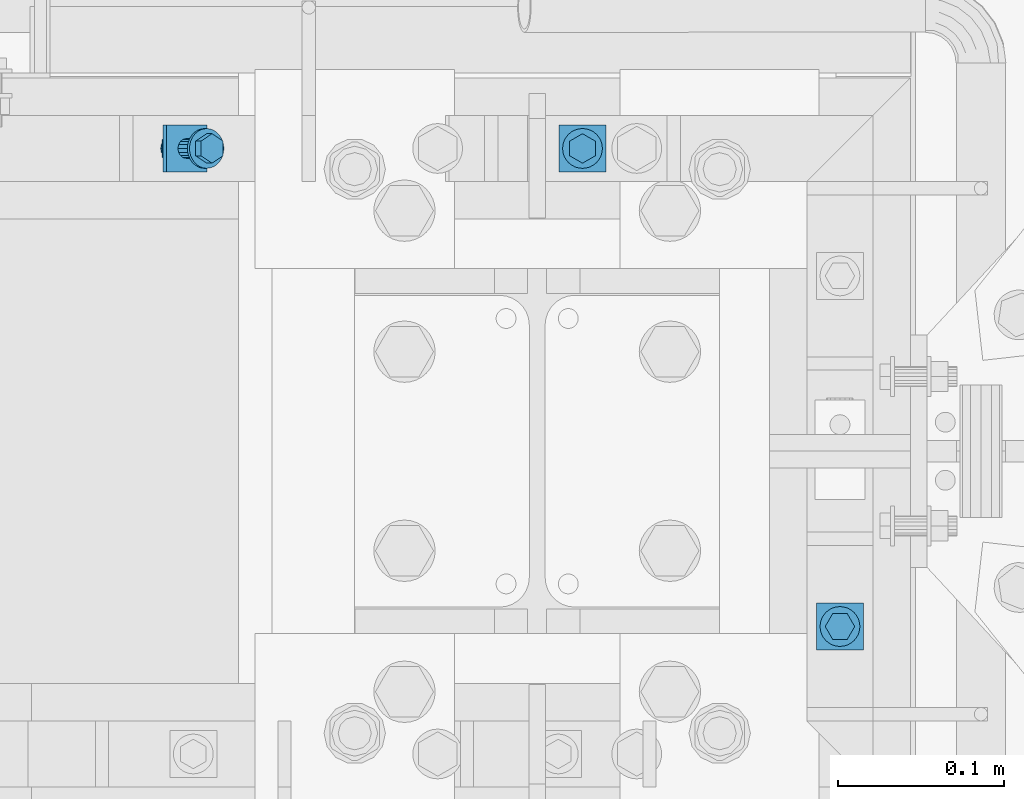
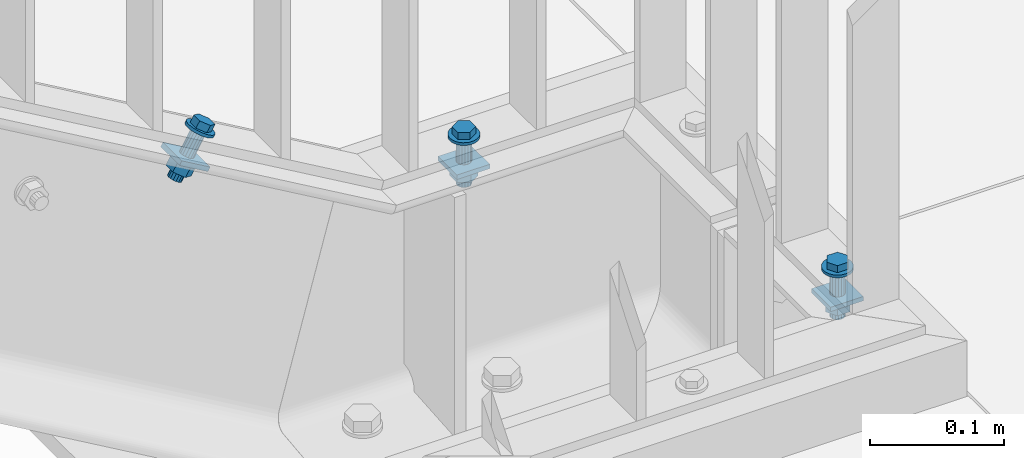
# One storey, part 108 of 145: 3 mechanical fasteners.
"""IFC2X3 building model written with IfcOpenShell, lengths in millimetres."""

from ifc_helpers import new_model, entity, si_unit, converted_unit, origin_with_axes, place, context, project, spatial, faceted_brep, element, save


model = new_model("IFC2X3")

# Units and contexts
model_context = context("Model", 3, precision=1e-09, world=origin_with_axes())
ifc_project = project(units=[si_unit("LENGTHUNIT", "METRE", prefix="MILLI"), si_unit("AREAUNIT", "SQUARE_METRE"), si_unit("VOLUMEUNIT", "CUBIC_METRE"), converted_unit("PLANEANGLEUNIT", "DEGREE", entity("IfcPlaneAngleMeasure", 0.01745329), si_unit("PLANEANGLEUNIT", "RADIAN"), dimensions=[0, 0, 0, 0, 0, 0, 0])], contexts=[model_context])

# Site, building, storey
site_placement = place(None, origin_with_axes())
site = spatial("IfcSite", under=ifc_project, at=site_placement, Name="BZ1 Grund- und Mittelschule 85716 Unterschlei?heim", CompositionType="ELEMENT")
building_placement = place(site_placement, origin_with_axes())
building = spatial("IfcBuilding", under=site, at=building_placement, Name="Struktur 1", CompositionType="ELEMENT")
storey_placement = place(building_placement, origin_with_axes())
storey = spatial("IfcBuildingStorey", under=building, at=storey_placement, Name="Default Storey", CompositionType="ELEMENT", Elevation=0.0)

# Mechanical fasteners
mechanical_fastener_1_placement = place(None, origin_with_axes())
element("IfcMechanicalFastener", 1, at=mechanical_fastener_1_placement, inside=storey, ObjectType="-", NominalDiameter=12.0, NominalLength=45.0, context=model_context, shape_type="Brep", body=[
    faceted_brep([(20020.738388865, -1512.502, 1701.285198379), (20021.995116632, -1512.502, 1703.446363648), (20021.795790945, -1514.843083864, 1703.562272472), (20020.539063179, -1514.843083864, 1701.401107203), (20021.205473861, -1517.094201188, 1703.905544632), (20019.948746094, -1517.094201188, 1701.744379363), (20020.246850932, -1519.168842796, 1704.462988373), (20018.990123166, -1519.168842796, 1702.301823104), (20018.956761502, -1520.987281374, 1705.213181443), (20017.700033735, -1520.987281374, 1703.052016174), (20017.384782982, -1522.479635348, 1706.127294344), (20016.128055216, -1522.479635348, 1703.966129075), (20015.591325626, -1523.58855439, 1707.17019823), (20014.33459786, -1523.58855439, 1705.00903296), (20013.645310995, -1524.271423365, 1708.301814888), (20012.388583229, -1524.271423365, 1706.140649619), (20011.621523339, -1524.502, 1709.478656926), (20010.364795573, -1524.502, 1707.317491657), (20009.597735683, -1524.271423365, 1710.655498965), (20008.341007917, -1524.271423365, 1708.494333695), (20007.651721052, -1523.58855439, 1711.787115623), (20006.394993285, -1523.58855439, 1709.625950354), (20005.858263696, -1522.479635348, 1712.830019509), (20004.60153593, -1522.479635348, 1710.668854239), (20004.286285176, -1520.987281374, 1713.74413241), (20003.02955741, -1520.987281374, 1711.58296714), (20002.996195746, -1519.168842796, 1714.49432548), (20001.739467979, -1519.168842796, 1712.333160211), (20002.037572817, -1517.094201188, 1715.05176922), (20000.780845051, -1517.094201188, 1712.890603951), (20001.447255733, -1514.843083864, 1715.395041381), (20000.190527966, -1514.843083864, 1713.233876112), (20001.247930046, -1512.502, 1715.510950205), (19999.99120228, -1512.502, 1713.349784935), (20001.447255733, -1510.160916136, 1715.395041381), (20000.190527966, -1510.160916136, 1713.233876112), (20002.037572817, -1507.909798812, 1715.05176922), (20000.780845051, -1507.909798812, 1712.890603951), (20002.996195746, -1505.835157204, 1714.49432548), (20001.739467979, -1505.835157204, 1712.333160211), (20004.286285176, -1504.016718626, 1713.74413241), (20003.02955741, -1504.016718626, 1711.58296714), (20005.858263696, -1502.524364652, 1712.830019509), (20004.60153593, -1502.524364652, 1710.668854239), (20007.651721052, -1501.41544561, 1711.787115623), (20006.394993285, -1501.41544561, 1709.625950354), (20009.597735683, -1500.732576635, 1710.655498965), (20008.341007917, -1500.732576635, 1708.494333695), (20011.621523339, -1500.502, 1709.478656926), (20010.364795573, -1500.502, 1707.317491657), (20013.645310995, -1500.732576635, 1708.301814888), (20012.388583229, -1500.732576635, 1706.140649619), (20015.591325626, -1501.41544561, 1707.17019823), (20014.33459786, -1501.41544561, 1705.00903296), (20017.384782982, -1502.524364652, 1706.127294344), (20016.128055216, -1502.524364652, 1703.966129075), (20018.956761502, -1504.016718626, 1705.213181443), (20017.700033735, -1504.016718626, 1703.052016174), (20020.246850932, -1505.835157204, 1704.462988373), (20018.990123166, -1505.835157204, 1702.301823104), (20021.205473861, -1507.909798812, 1703.905544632), (20019.948746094, -1507.909798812, 1701.744379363), (20021.795790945, -1510.160916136, 1703.562272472), (20020.539063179, -1510.160916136, 1701.401107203)], [[[0, 1, 2, 3]], [[3, 2, 4, 5]], [[5, 4, 6, 7]], [[7, 6, 8, 9]], [[9, 8, 10, 11]], [[11, 10, 12, 13]], [[13, 12, 14, 15]], [[15, 14, 16, 17]], [[17, 16, 18, 19]], [[19, 18, 20, 21]], [[21, 20, 22, 23]], [[23, 22, 24, 25]], [[25, 24, 26, 27]], [[27, 26, 28, 29]], [[29, 28, 30, 31]], [[31, 30, 32, 33]], [[33, 32, 34, 35]], [[35, 34, 36, 37]], [[37, 36, 38, 39]], [[39, 38, 40, 41]], [[41, 40, 42, 43]], [[43, 42, 44, 45]], [[45, 44, 46, 47]], [[47, 46, 48, 49]], [[49, 48, 50, 51]], [[51, 50, 52, 53]], [[53, 52, 54, 55]], [[55, 54, 56, 57]], [[57, 56, 58, 59]], [[59, 58, 60, 61]], [[61, 60, 62, 63]], [[63, 62, 1, 0]], [[2, 1, 62, 60, 58, 56, 54, 52, 50, 48, 46, 44, 42, 40, 38, 36, 34, 32, 30, 28, 26, 24, 22, 20, 18, 16, 14, 12, 10, 8, 6, 4]], [[63, 0, 3, 5, 7, 9, 11, 13, 15, 17, 19, 21, 23, 25, 27, 29, 31, 33, 35, 37, 39, 41, 43, 45, 47, 49, 51, 53, 55, 57, 59, 61]]]),
    faceted_brep([(20008.186994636, -1516.9445, 1718.879264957), (20004.969771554, -1516.9445, 1713.346681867), (20011.621523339, -1521.387, 1709.478656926), (20014.838746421, -1521.387, 1715.011240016), (20018.273275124, -1516.9445, 1705.610631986), (20021.490498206, -1516.9445, 1711.143215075), (20018.273275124, -1508.0595, 1705.610631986), (20021.490498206, -1508.0595, 1711.143215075), (20011.621523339, -1503.617, 1709.478656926), (20014.838746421, -1503.617, 1715.011240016), (20004.969771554, -1508.0595, 1713.346681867), (20008.186994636, -1508.0595, 1718.879264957)], [[[0, 1, 2, 3]], [[3, 2, 4, 5]], [[5, 4, 6, 7]], [[7, 6, 8, 9]], [[9, 8, 10, 11]], [[11, 10, 1, 0]], [[3, 5, 7, 9, 11, 0]], [[2, 1, 10, 8, 6, 4]]]),
    faceted_brep([(20004.65183036, -1512.502, 1685.55728015), (20015.551592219, -1512.502, 1704.301345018), (20015.156770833, -1514.798100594, 1704.53093551), (20004.257008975, -1514.798100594, 1685.786870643), (20014.032414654, -1516.744640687, 1705.184753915), (20003.132652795, -1516.744640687, 1686.440689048), (20012.349696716, -1518.045277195, 1706.163262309), (20001.449934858, -1518.045277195, 1687.419197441), (20010.364795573, -1518.502, 1707.317491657), (19999.465033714, -1518.502, 1688.57342679), (20008.379894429, -1518.045277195, 1708.471721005), (19997.48013257, -1518.045277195, 1689.727656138), (20006.697176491, -1516.744640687, 1709.450229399), (19995.797414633, -1516.744640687, 1690.706164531), (20005.572820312, -1514.798100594, 1710.104047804), (19994.673058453, -1514.798100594, 1691.359982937), (20005.177998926, -1512.502, 1710.333638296), (19994.278237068, -1512.502, 1691.589573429), (20005.572820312, -1510.205899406, 1710.104047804), (19994.673058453, -1510.205899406, 1691.359982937), (20006.697176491, -1508.259359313, 1709.450229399), (19995.797414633, -1508.259359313, 1690.706164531), (20008.379894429, -1506.958722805, 1708.471721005), (19997.48013257, -1506.958722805, 1689.727656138), (20010.364795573, -1506.502, 1707.317491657), (19999.465033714, -1506.502, 1688.57342679), (20012.349696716, -1506.958722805, 1706.163262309), (20001.449934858, -1506.958722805, 1687.419197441), (20014.032414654, -1508.259359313, 1705.184753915), (20003.132652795, -1508.259359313, 1686.440689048), (20015.156770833, -1510.205899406, 1704.53093551), (20004.257008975, -1510.205899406, 1685.786870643)], [[[0, 1, 2, 3]], [[3, 2, 4, 5]], [[5, 4, 6, 7]], [[7, 6, 8, 9]], [[9, 8, 10, 11]], [[11, 10, 12, 13]], [[13, 12, 14, 15]], [[15, 14, 16, 17]], [[17, 16, 18, 19]], [[19, 18, 20, 21]], [[21, 20, 22, 23]], [[23, 22, 24, 25]], [[25, 24, 26, 27]], [[27, 26, 28, 29]], [[29, 28, 30, 31]], [[31, 30, 1, 0]], [[2, 1, 30, 28, 26, 24, 22, 20, 18, 16, 14, 12, 10, 8, 6, 4]], [[31, 0, 3, 5, 7, 9, 11, 13, 15, 17, 19, 21, 23, 25, 27, 29]]]),
    faceted_brep([(19987.239636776, -1526.644135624, 1695.682552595), (19985.22887235, -1526.644135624, 1692.224688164), (20009.679666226, -1526.644135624, 1678.006436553), (20011.690430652, -1526.644135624, 1681.464300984), (20009.679666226, -1498.359864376, 1678.006436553), (20011.690430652, -1498.359864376, 1681.464300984), (19985.22887235, -1498.359864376, 1692.224688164), (19987.239636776, -1498.359864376, 1695.682552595)], [[[0, 1, 2, 3]], [[3, 2, 4, 5]], [[5, 4, 6, 7]], [[7, 6, 1, 0]], [[3, 5, 7, 0]], [[2, 1, 6, 4]]]),
    faceted_brep([(19989.556015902, -1517.777, 1689.708433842), (19984.529104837, -1517.777, 1681.063772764), (19992.427358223, -1523.052, 1676.470901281), (19997.454269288, -1523.052, 1685.115562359), (20000.325611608, -1517.777, 1671.878029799), (20005.352522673, -1517.777, 1680.522690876), (20000.325611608, -1507.227, 1671.878029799), (20005.352522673, -1507.227, 1680.522690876), (19992.427358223, -1501.952, 1676.470901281), (19997.454269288, -1501.952, 1685.115562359), (19984.529104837, -1507.227, 1681.063772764), (19989.556015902, -1507.227, 1689.708433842)], [[[0, 1, 2, 3]], [[3, 2, 4, 5]], [[5, 4, 6, 7]], [[7, 6, 8, 9]], [[9, 8, 10, 11]], [[11, 10, 1, 0]], [[3, 5, 7, 9, 11, 0]], [[2, 1, 10, 8, 6, 4]]]),
    faceted_brep([(19994.187220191, -1512.502, 1667.561535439), (19997.614154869, -1512.502, 1673.454754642), (19997.219333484, -1514.798100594, 1673.684345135), (19993.792398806, -1514.798100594, 1667.791125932), (19996.094977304, -1516.744640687, 1674.33816354), (19992.668042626, -1516.744640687, 1668.444944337), (19994.412259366, -1518.045277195, 1675.316671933), (19990.985324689, -1518.045277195, 1669.42345273), (19992.427358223, -1518.502, 1676.470901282), (19989.000423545, -1518.502, 1670.577682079), (19990.442457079, -1518.045277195, 1677.62513063), (19987.015522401, -1518.045277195, 1671.731911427), (19988.759739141, -1516.744640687, 1678.603639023), (19985.332804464, -1516.744640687, 1672.71041982), (19987.635382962, -1514.798100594, 1679.257457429), (19984.208448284, -1514.798100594, 1673.364238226), (19987.240561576, -1512.502, 1679.487047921), (19983.813626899, -1512.502, 1673.593828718), (19987.635382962, -1510.205899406, 1679.257457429), (19984.208448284, -1510.205899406, 1673.364238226), (19988.759739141, -1508.259359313, 1678.603639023), (19985.332804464, -1508.259359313, 1672.71041982), (19990.442457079, -1506.958722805, 1677.62513063), (19987.015522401, -1506.958722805, 1671.731911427), (19992.427358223, -1506.502, 1676.470901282), (19989.000423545, -1506.502, 1670.577682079), (19994.412259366, -1506.958722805, 1675.316671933), (19990.985324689, -1506.958722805, 1669.42345273), (19996.094977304, -1508.259359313, 1674.33816354), (19992.668042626, -1508.259359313, 1668.444944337), (19997.219333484, -1510.205899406, 1673.684345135), (19993.792398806, -1510.205899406, 1667.791125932)], [[[0, 1, 2, 3]], [[3, 2, 4, 5]], [[5, 4, 6, 7]], [[7, 6, 8, 9]], [[9, 8, 10, 11]], [[11, 10, 12, 13]], [[13, 12, 14, 15]], [[15, 14, 16, 17]], [[17, 16, 18, 19]], [[19, 18, 20, 21]], [[21, 20, 22, 23]], [[23, 22, 24, 25]], [[25, 24, 26, 27]], [[27, 26, 28, 29]], [[29, 28, 30, 31]], [[31, 30, 1, 0]], [[2, 1, 30, 28, 26, 24, 22, 20, 18, 16, 14, 12, 10, 8, 6, 4]], [[31, 0, 3, 5, 7, 9, 11, 13, 15, 17, 19, 21, 23, 25, 27, 29]]]),
])
mechanical_fastener_2_placement = place(None, origin_with_axes())
element("IfcMechanicalFastener", 2, at=mechanical_fastener_2_placement, inside=storey, ObjectType="-", NominalDiameter=12.0, NominalLength=45.0, context=model_context, shape_type="Brep", body=[
    faceted_brep([(20250.141490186, -1512.502, 1621.636364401), (20250.141490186, -1512.502, 1624.136364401), (20249.910913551, -1514.843083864, 1624.136364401), (20249.910913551, -1514.843083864, 1621.636364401), (20249.228044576, -1517.094201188, 1624.136364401), (20249.228044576, -1517.094201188, 1621.636364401), (20248.119125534, -1519.168842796, 1624.136364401), (20248.119125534, -1519.168842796, 1621.636364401), (20246.62677156, -1520.987281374, 1624.136364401), (20246.62677156, -1520.987281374, 1621.636364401), (20244.808332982, -1522.479635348, 1624.136364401), (20244.808332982, -1522.479635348, 1621.636364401), (20242.733691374, -1523.58855439, 1624.136364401), (20242.733691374, -1523.58855439, 1621.636364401), (20240.48257405, -1524.271423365, 1624.136364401), (20240.48257405, -1524.271423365, 1621.636364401), (20238.141490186, -1524.502, 1624.136364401), (20238.141490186, -1524.502, 1621.636364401), (20235.800406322, -1524.271423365, 1624.136364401), (20235.800406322, -1524.271423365, 1621.636364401), (20233.549288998, -1523.58855439, 1624.136364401), (20233.549288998, -1523.58855439, 1621.636364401), (20231.47464739, -1522.479635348, 1624.136364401), (20231.47464739, -1522.479635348, 1621.636364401), (20229.656208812, -1520.987281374, 1624.136364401), (20229.656208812, -1520.987281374, 1621.636364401), (20228.163854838, -1519.168842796, 1624.136364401), (20228.163854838, -1519.168842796, 1621.636364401), (20227.054935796, -1517.094201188, 1624.136364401), (20227.054935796, -1517.094201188, 1621.636364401), (20226.372066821, -1514.843083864, 1624.136364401), (20226.372066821, -1514.843083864, 1621.636364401), (20226.141490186, -1512.502, 1624.136364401), (20226.141490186, -1512.502, 1621.636364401), (20226.372066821, -1510.160916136, 1624.136364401), (20226.372066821, -1510.160916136, 1621.636364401), (20227.054935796, -1507.909798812, 1624.136364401), (20227.054935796, -1507.909798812, 1621.636364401), (20228.163854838, -1505.835157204, 1624.136364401), (20228.163854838, -1505.835157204, 1621.636364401), (20229.656208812, -1504.016718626, 1624.136364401), (20229.656208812, -1504.016718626, 1621.636364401), (20231.47464739, -1502.524364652, 1624.136364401), (20231.47464739, -1502.524364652, 1621.636364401), (20233.549288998, -1501.41544561, 1624.136364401), (20233.549288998, -1501.41544561, 1621.636364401), (20235.800406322, -1500.732576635, 1624.136364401), (20235.800406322, -1500.732576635, 1621.636364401), (20238.141490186, -1500.502, 1624.136364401), (20238.141490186, -1500.502, 1621.636364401), (20240.48257405, -1500.732576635, 1624.136364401), (20240.48257405, -1500.732576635, 1621.636364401), (20242.733691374, -1501.41544561, 1624.136364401), (20242.733691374, -1501.41544561, 1621.636364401), (20244.808332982, -1502.524364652, 1624.136364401), (20244.808332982, -1502.524364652, 1621.636364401), (20246.62677156, -1504.016718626, 1624.136364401), (20246.62677156, -1504.016718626, 1621.636364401), (20248.119125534, -1505.835157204, 1624.136364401), (20248.119125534, -1505.835157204, 1621.636364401), (20249.228044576, -1507.909798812, 1624.136364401), (20249.228044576, -1507.909798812, 1621.636364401), (20249.910913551, -1510.160916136, 1624.136364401), (20249.910913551, -1510.160916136, 1621.636364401)], [[[0, 1, 2, 3]], [[3, 2, 4, 5]], [[5, 4, 6, 7]], [[7, 6, 8, 9]], [[9, 8, 10, 11]], [[11, 10, 12, 13]], [[13, 12, 14, 15]], [[15, 14, 16, 17]], [[17, 16, 18, 19]], [[19, 18, 20, 21]], [[21, 20, 22, 23]], [[23, 22, 24, 25]], [[25, 24, 26, 27]], [[27, 26, 28, 29]], [[29, 28, 30, 31]], [[31, 30, 32, 33]], [[33, 32, 34, 35]], [[35, 34, 36, 37]], [[37, 36, 38, 39]], [[39, 38, 40, 41]], [[41, 40, 42, 43]], [[43, 42, 44, 45]], [[45, 44, 46, 47]], [[47, 46, 48, 49]], [[49, 48, 50, 51]], [[51, 50, 52, 53]], [[53, 52, 54, 55]], [[55, 54, 56, 57]], [[57, 56, 58, 59]], [[59, 58, 60, 61]], [[61, 60, 62, 63]], [[63, 62, 1, 0]], [[2, 1, 62, 60, 58, 56, 54, 52, 50, 48, 46, 44, 42, 40, 38, 36, 34, 32, 30, 28, 26, 24, 22, 20, 18, 16, 14, 12, 10, 8, 6, 4]], [[63, 0, 3, 5, 7, 9, 11, 13, 15, 17, 19, 21, 23, 25, 27, 29, 31, 33, 35, 37, 39, 41, 43, 45, 47, 49, 51, 53, 55, 57, 59, 61]]]),
    faceted_brep([(20230.446854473, -1516.9445, 1630.536364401), (20230.446854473, -1516.9445, 1624.136364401), (20238.141490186, -1521.387, 1624.136364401), (20238.141490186, -1521.387, 1630.536364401), (20245.836125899, -1516.9445, 1624.136364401), (20245.836125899, -1516.9445, 1630.536364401), (20245.836125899, -1508.0595, 1624.136364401), (20245.836125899, -1508.0595, 1630.536364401), (20238.141490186, -1503.617, 1624.136364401), (20238.141490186, -1503.617, 1630.536364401), (20230.446854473, -1508.0595, 1624.136364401), (20230.446854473, -1508.0595, 1630.536364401)], [[[0, 1, 2, 3]], [[3, 2, 4, 5]], [[5, 4, 6, 7]], [[7, 6, 8, 9]], [[9, 8, 10, 11]], [[11, 10, 1, 0]], [[3, 5, 7, 9, 11, 0]], [[2, 1, 10, 8, 6, 4]]]),
    faceted_brep([(20244.141490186, -1512.502, 1599.833658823), (20244.141490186, -1512.502, 1621.636364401), (20243.684767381, -1514.798100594, 1621.636364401), (20243.684767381, -1514.798100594, 1599.833658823), (20242.384130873, -1516.744640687, 1621.636364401), (20242.384130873, -1516.744640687, 1599.833658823), (20240.43759078, -1518.045277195, 1621.636364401), (20240.43759078, -1518.045277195, 1599.833658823), (20238.141490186, -1518.502, 1621.636364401), (20238.141490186, -1518.502, 1599.833658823), (20235.845389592, -1518.045277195, 1621.636364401), (20235.845389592, -1518.045277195, 1599.833658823), (20233.898849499, -1516.744640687, 1621.636364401), (20233.898849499, -1516.744640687, 1599.833658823), (20232.598212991, -1514.798100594, 1621.636364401), (20232.598212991, -1514.798100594, 1599.833658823), (20232.141490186, -1512.502, 1621.636364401), (20232.141490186, -1512.502, 1599.833658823), (20232.598212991, -1510.205899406, 1621.636364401), (20232.598212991, -1510.205899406, 1599.833658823), (20233.898849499, -1508.259359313, 1621.636364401), (20233.898849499, -1508.259359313, 1599.833658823), (20235.845389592, -1506.958722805, 1621.636364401), (20235.845389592, -1506.958722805, 1599.833658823), (20238.141490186, -1506.502, 1621.636364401), (20238.141490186, -1506.502, 1599.833658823), (20240.43759078, -1506.958722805, 1621.636364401), (20240.43759078, -1506.958722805, 1599.833658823), (20242.384130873, -1508.259359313, 1621.636364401), (20242.384130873, -1508.259359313, 1599.833658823), (20243.684767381, -1510.205899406, 1621.636364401), (20243.684767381, -1510.205899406, 1599.833658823)], [[[0, 1, 2, 3]], [[3, 2, 4, 5]], [[5, 4, 6, 7]], [[7, 6, 8, 9]], [[9, 8, 10, 11]], [[11, 10, 12, 13]], [[13, 12, 14, 15]], [[15, 14, 16, 17]], [[17, 16, 18, 19]], [[19, 18, 20, 21]], [[21, 20, 22, 23]], [[23, 22, 24, 25]], [[25, 24, 26, 27]], [[27, 26, 28, 29]], [[29, 28, 30, 31]], [[31, 30, 1, 0]], [[2, 1, 30, 28, 26, 24, 22, 20, 18, 16, 14, 12, 10, 8, 6, 4]], [[31, 0, 3, 5, 7, 9, 11, 13, 15, 17, 19, 21, 23, 25, 27, 29]]]),
    faceted_brep([(20223.999354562, -1526.644135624, 1599.833658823), (20223.999354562, -1526.644135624, 1595.833658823), (20252.28362581, -1526.644135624, 1595.833658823), (20252.28362581, -1526.644135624, 1599.833658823), (20252.28362581, -1498.359864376, 1595.833658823), (20252.28362581, -1498.359864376, 1599.833658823), (20223.999354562, -1498.359864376, 1595.833658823), (20223.999354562, -1498.359864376, 1599.833658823)], [[[0, 1, 2, 3]], [[3, 2, 4, 5]], [[5, 4, 6, 7]], [[7, 6, 1, 0]], [[3, 5, 7, 0]], [[2, 1, 6, 4]]]),
    faceted_brep([(20229.004922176, -1517.777, 1595.833658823), (20229.004922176, -1517.777, 1585.833658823), (20238.141490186, -1523.052, 1585.833658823), (20238.141490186, -1523.052, 1595.833658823), (20247.278058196, -1517.777, 1585.833658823), (20247.278058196, -1517.777, 1595.833658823), (20247.278058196, -1507.227, 1585.833658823), (20247.278058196, -1507.227, 1595.833658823), (20238.141490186, -1501.952, 1585.833658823), (20238.141490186, -1501.952, 1595.833658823), (20229.004922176, -1507.227, 1585.833658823), (20229.004922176, -1507.227, 1595.833658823)], [[[0, 1, 2, 3]], [[3, 2, 4, 5]], [[5, 4, 6, 7]], [[7, 6, 8, 9]], [[9, 8, 10, 11]], [[11, 10, 1, 0]], [[3, 5, 7, 9, 11, 0]], [[2, 1, 10, 8, 6, 4]]]),
    faceted_brep([(20244.141490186, -1512.502, 1579.136364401), (20244.141490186, -1512.502, 1585.833658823), (20243.684767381, -1514.798100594, 1585.833658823), (20243.684767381, -1514.798100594, 1579.136364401), (20242.384130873, -1516.744640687, 1585.833658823), (20242.384130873, -1516.744640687, 1579.136364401), (20240.43759078, -1518.045277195, 1585.833658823), (20240.43759078, -1518.045277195, 1579.136364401), (20238.141490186, -1518.502, 1585.833658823), (20238.141490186, -1518.502, 1579.136364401), (20235.845389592, -1518.045277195, 1585.833658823), (20235.845389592, -1518.045277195, 1579.136364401), (20233.898849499, -1516.744640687, 1585.833658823), (20233.898849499, -1516.744640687, 1579.136364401), (20232.598212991, -1514.798100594, 1585.833658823), (20232.598212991, -1514.798100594, 1579.136364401), (20232.141490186, -1512.502, 1585.833658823), (20232.141490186, -1512.502, 1579.136364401), (20232.598212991, -1510.205899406, 1585.833658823), (20232.598212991, -1510.205899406, 1579.136364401), (20233.898849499, -1508.259359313, 1585.833658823), (20233.898849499, -1508.259359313, 1579.136364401), (20235.845389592, -1506.958722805, 1585.833658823), (20235.845389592, -1506.958722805, 1579.136364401), (20238.141490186, -1506.502, 1585.833658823), (20238.141490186, -1506.502, 1579.136364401), (20240.43759078, -1506.958722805, 1585.833658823), (20240.43759078, -1506.958722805, 1579.136364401), (20242.384130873, -1508.259359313, 1585.833658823), (20242.384130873, -1508.259359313, 1579.136364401), (20243.684767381, -1510.205899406, 1585.833658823), (20243.684767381, -1510.205899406, 1579.136364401)], [[[0, 1, 2, 3]], [[3, 2, 4, 5]], [[5, 4, 6, 7]], [[7, 6, 8, 9]], [[9, 8, 10, 11]], [[11, 10, 12, 13]], [[13, 12, 14, 15]], [[15, 14, 16, 17]], [[17, 16, 18, 19]], [[19, 18, 20, 21]], [[21, 20, 22, 23]], [[23, 22, 24, 25]], [[25, 24, 26, 27]], [[27, 26, 28, 29]], [[29, 28, 30, 31]], [[31, 30, 1, 0]], [[2, 1, 30, 28, 26, 24, 22, 20, 18, 16, 14, 12, 10, 8, 6, 4]], [[31, 0, 3, 5, 7, 9, 11, 13, 15, 17, 19, 21, 23, 25, 27, 29]]]),
])
mechanical_fastener_3_placement = place(None, origin_with_axes())
element("IfcMechanicalFastener", 3, at=mechanical_fastener_3_placement, inside=storey, ObjectType="-", NominalDiameter=12.0, NominalLength=45.0, context=model_context, shape_type="Brep", body=[
    faceted_brep([(20393.34472732, -1788.66866667, 1624.136364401), (20393.34472732, -1788.66866667, 1621.636364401), (20391.003643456, -1788.899243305, 1621.636364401), (20391.003643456, -1788.899243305, 1624.136364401), (20388.752526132, -1789.58211228, 1621.636364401), (20388.752526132, -1789.58211228, 1624.136364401), (20386.677884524, -1790.691031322, 1621.636364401), (20386.677884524, -1790.691031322, 1624.136364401), (20384.859445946, -1792.183385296, 1621.636364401), (20384.859445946, -1792.183385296, 1624.136364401), (20383.367091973, -1794.001823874, 1621.636364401), (20383.367091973, -1794.001823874, 1624.136364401), (20382.25817293, -1796.076465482, 1621.636364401), (20382.25817293, -1796.076465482, 1624.136364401), (20381.575303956, -1798.327582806, 1621.636364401), (20381.575303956, -1798.327582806, 1624.136364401), (20381.34472732, -1800.66866667, 1621.636364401), (20381.34472732, -1800.66866667, 1624.136364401), (20381.575303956, -1803.009750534, 1621.636364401), (20381.575303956, -1803.009750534, 1624.136364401), (20382.25817293, -1805.260867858, 1621.636364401), (20382.25817293, -1805.260867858, 1624.136364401), (20383.367091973, -1807.335509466, 1621.636364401), (20383.367091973, -1807.335509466, 1624.136364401), (20384.859445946, -1809.153948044, 1621.636364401), (20384.859445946, -1809.153948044, 1624.136364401), (20386.677884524, -1810.646302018, 1621.636364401), (20386.677884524, -1810.646302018, 1624.136364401), (20388.752526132, -1811.75522106, 1621.636364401), (20388.752526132, -1811.75522106, 1624.136364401), (20391.003643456, -1812.438090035, 1621.636364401), (20391.003643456, -1812.438090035, 1624.136364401), (20393.34472732, -1812.66866667, 1621.636364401), (20393.34472732, -1812.66866667, 1624.136364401), (20395.685811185, -1812.438090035, 1621.636364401), (20395.685811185, -1812.438090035, 1624.136364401), (20397.936928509, -1811.75522106, 1621.636364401), (20397.936928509, -1811.75522106, 1624.136364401), (20400.011570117, -1810.646302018, 1621.636364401), (20400.011570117, -1810.646302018, 1624.136364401), (20401.830008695, -1809.153948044, 1621.636364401), (20401.830008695, -1809.153948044, 1624.136364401), (20403.322362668, -1807.335509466, 1621.636364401), (20403.322362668, -1807.335509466, 1624.136364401), (20404.43128171, -1805.260867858, 1621.636364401), (20404.43128171, -1805.260867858, 1624.136364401), (20405.114150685, -1803.009750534, 1621.636364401), (20405.114150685, -1803.009750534, 1624.136364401), (20405.34472732, -1800.66866667, 1621.636364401), (20405.34472732, -1800.66866667, 1624.136364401), (20405.114150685, -1798.327582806, 1621.636364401), (20405.114150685, -1798.327582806, 1624.136364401), (20404.43128171, -1796.076465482, 1621.636364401), (20404.43128171, -1796.076465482, 1624.136364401), (20403.322362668, -1794.001823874, 1621.636364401), (20403.322362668, -1794.001823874, 1624.136364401), (20401.830008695, -1792.183385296, 1621.636364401), (20401.830008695, -1792.183385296, 1624.136364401), (20400.011570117, -1790.691031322, 1621.636364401), (20400.011570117, -1790.691031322, 1624.136364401), (20397.936928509, -1789.58211228, 1621.636364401), (20397.936928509, -1789.58211228, 1624.136364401), (20395.685811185, -1788.899243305, 1621.636364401), (20395.685811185, -1788.899243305, 1624.136364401)], [[[0, 1, 2, 3]], [[3, 2, 4, 5]], [[5, 4, 6, 7]], [[7, 6, 8, 9]], [[9, 8, 10, 11]], [[11, 10, 12, 13]], [[13, 12, 14, 15]], [[15, 14, 16, 17]], [[17, 16, 18, 19]], [[19, 18, 20, 21]], [[21, 20, 22, 23]], [[23, 22, 24, 25]], [[25, 24, 26, 27]], [[27, 26, 28, 29]], [[29, 28, 30, 31]], [[31, 30, 32, 33]], [[33, 32, 34, 35]], [[35, 34, 36, 37]], [[37, 36, 38, 39]], [[39, 38, 40, 41]], [[41, 40, 42, 43]], [[43, 42, 44, 45]], [[45, 44, 46, 47]], [[47, 46, 48, 49]], [[49, 48, 50, 51]], [[51, 50, 52, 53]], [[53, 52, 54, 55]], [[55, 54, 56, 57]], [[57, 56, 58, 59]], [[59, 58, 60, 61]], [[61, 60, 62, 63]], [[63, 62, 1, 0]], [[0, 3, 5, 7, 9, 11, 13, 15, 17, 19, 21, 23, 25, 27, 29, 31, 33, 35, 37, 39, 41, 43, 45, 47, 49, 51, 53, 55, 57, 59, 61, 63]], [[1, 62, 60, 58, 56, 54, 52, 50, 48, 46, 44, 42, 40, 38, 36, 34, 32, 30, 28, 26, 24, 22, 20, 18, 16, 14, 12, 10, 8, 6, 4, 2]]]),
    faceted_brep([(20388.90222732, -1808.363302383, 1624.136364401), (20388.90222732, -1808.363302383, 1630.536364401), (20384.45972732, -1800.66866667, 1630.536364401), (20384.45972732, -1800.66866667, 1624.136364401), (20388.90222732, -1792.974030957, 1630.536364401), (20388.90222732, -1792.974030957, 1624.136364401), (20397.78722732, -1792.974030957, 1630.536364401), (20397.78722732, -1792.974030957, 1624.136364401), (20402.22972732, -1800.66866667, 1630.536364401), (20402.22972732, -1800.66866667, 1624.136364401), (20397.78722732, -1808.363302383, 1630.536364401), (20397.78722732, -1808.363302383, 1624.136364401)], [[[0, 1, 2, 3]], [[3, 2, 4, 5]], [[5, 4, 6, 7]], [[7, 6, 8, 9]], [[9, 8, 10, 11]], [[11, 10, 1, 0]], [[4, 2, 1, 10, 8, 6]], [[0, 3, 5, 7, 9, 11]]]),
    faceted_brep([(20393.34472732, -1794.66866667, 1621.636364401), (20393.34472732, -1794.66866667, 1599.953542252), (20391.048626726, -1795.125389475, 1599.953542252), (20391.048626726, -1795.125389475, 1621.636364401), (20389.102086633, -1796.426025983, 1599.953542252), (20389.102086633, -1796.426025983, 1621.636364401), (20387.801450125, -1798.372566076, 1599.953542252), (20387.801450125, -1798.372566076, 1621.636364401), (20387.34472732, -1800.66866667, 1599.953542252), (20387.34472732, -1800.66866667, 1621.636364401), (20387.801450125, -1802.964767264, 1599.953542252), (20387.801450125, -1802.964767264, 1621.636364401), (20389.102086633, -1804.911307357, 1599.953542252), (20389.102086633, -1804.911307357, 1621.636364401), (20391.048626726, -1806.211943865, 1599.953542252), (20391.048626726, -1806.211943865, 1621.636364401), (20393.34472732, -1806.66866667, 1599.953542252), (20393.34472732, -1806.66866667, 1621.636364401), (20395.640827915, -1806.211943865, 1599.953542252), (20395.640827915, -1806.211943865, 1621.636364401), (20397.587368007, -1804.911307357, 1599.953542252), (20397.587368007, -1804.911307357, 1621.636364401), (20398.888004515, -1802.964767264, 1599.953542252), (20398.888004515, -1802.964767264, 1621.636364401), (20399.34472732, -1800.66866667, 1599.953542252), (20399.34472732, -1800.66866667, 1621.636364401), (20398.888004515, -1798.372566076, 1599.953542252), (20398.888004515, -1798.372566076, 1621.636364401), (20397.587368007, -1796.426025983, 1599.953542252), (20397.587368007, -1796.426025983, 1621.636364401), (20395.640827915, -1795.125389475, 1599.953542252), (20395.640827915, -1795.125389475, 1621.636364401)], [[[0, 1, 2, 3]], [[3, 2, 4, 5]], [[5, 4, 6, 7]], [[7, 6, 8, 9]], [[9, 8, 10, 11]], [[11, 10, 12, 13]], [[13, 12, 14, 15]], [[15, 14, 16, 17]], [[17, 16, 18, 19]], [[19, 18, 20, 21]], [[21, 20, 22, 23]], [[23, 22, 24, 25]], [[25, 24, 26, 27]], [[27, 26, 28, 29]], [[29, 28, 30, 31]], [[31, 30, 1, 0]], [[0, 3, 5, 7, 9, 11, 13, 15, 17, 19, 21, 23, 25, 27, 29, 31]], [[1, 30, 28, 26, 24, 22, 20, 18, 16, 14, 12, 10, 8, 6, 4, 2]]]),
    faceted_brep([(20379.202591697, -1814.810802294, 1595.953542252), (20379.202591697, -1814.810802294, 1599.953542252), (20379.202591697, -1786.526531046, 1599.953542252), (20379.202591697, -1786.526531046, 1595.953542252), (20407.486862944, -1786.526531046, 1599.953542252), (20407.486862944, -1786.526531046, 1595.953542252), (20407.486862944, -1814.810802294, 1599.953542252), (20407.486862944, -1814.810802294, 1595.953542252)], [[[0, 1, 2, 3]], [[3, 2, 4, 5]], [[5, 4, 6, 7]], [[7, 6, 1, 0]], [[4, 2, 1, 6]], [[0, 3, 5, 7]]]),
    faceted_brep([(20388.06972732, -1809.80523468, 1585.953542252), (20388.06972732, -1809.80523468, 1595.953542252), (20382.79472732, -1800.66866667, 1595.953542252), (20382.79472732, -1800.66866667, 1585.953542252), (20388.06972732, -1791.53209866, 1595.953542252), (20388.06972732, -1791.53209866, 1585.953542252), (20398.61972732, -1791.53209866, 1595.953542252), (20398.61972732, -1791.53209866, 1585.953542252), (20403.89472732, -1800.66866667, 1595.953542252), (20403.89472732, -1800.66866667, 1585.953542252), (20398.61972732, -1809.80523468, 1595.953542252), (20398.61972732, -1809.80523468, 1585.953542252)], [[[0, 1, 2, 3]], [[3, 2, 4, 5]], [[5, 4, 6, 7]], [[7, 6, 8, 9]], [[9, 8, 10, 11]], [[11, 10, 1, 0]], [[4, 2, 1, 10, 8, 6]], [[0, 3, 5, 7, 9, 11]]]),
    faceted_brep([(20393.34472732, -1794.66866667, 1585.953542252), (20393.34472732, -1794.66866667, 1579.136364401), (20391.048626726, -1795.125389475, 1579.136364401), (20391.048626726, -1795.125389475, 1585.953542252), (20389.102086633, -1796.426025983, 1579.136364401), (20389.102086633, -1796.426025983, 1585.953542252), (20387.801450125, -1798.372566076, 1579.136364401), (20387.801450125, -1798.372566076, 1585.953542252), (20387.34472732, -1800.66866667, 1579.136364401), (20387.34472732, -1800.66866667, 1585.953542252), (20387.801450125, -1802.964767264, 1579.136364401), (20387.801450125, -1802.964767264, 1585.953542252), (20389.102086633, -1804.911307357, 1579.136364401), (20389.102086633, -1804.911307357, 1585.953542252), (20391.048626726, -1806.211943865, 1579.136364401), (20391.048626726, -1806.211943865, 1585.953542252), (20393.34472732, -1806.66866667, 1579.136364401), (20393.34472732, -1806.66866667, 1585.953542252), (20395.640827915, -1806.211943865, 1579.136364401), (20395.640827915, -1806.211943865, 1585.953542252), (20397.587368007, -1804.911307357, 1579.136364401), (20397.587368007, -1804.911307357, 1585.953542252), (20398.888004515, -1802.964767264, 1579.136364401), (20398.888004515, -1802.964767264, 1585.953542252), (20399.34472732, -1800.66866667, 1579.136364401), (20399.34472732, -1800.66866667, 1585.953542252), (20398.888004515, -1798.372566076, 1579.136364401), (20398.888004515, -1798.372566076, 1585.953542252), (20397.587368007, -1796.426025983, 1579.136364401), (20397.587368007, -1796.426025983, 1585.953542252), (20395.640827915, -1795.125389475, 1579.136364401), (20395.640827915, -1795.125389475, 1585.953542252)], [[[0, 1, 2, 3]], [[3, 2, 4, 5]], [[5, 4, 6, 7]], [[7, 6, 8, 9]], [[9, 8, 10, 11]], [[11, 10, 12, 13]], [[13, 12, 14, 15]], [[15, 14, 16, 17]], [[17, 16, 18, 19]], [[19, 18, 20, 21]], [[21, 20, 22, 23]], [[23, 22, 24, 25]], [[25, 24, 26, 27]], [[27, 26, 28, 29]], [[29, 28, 30, 31]], [[31, 30, 1, 0]], [[0, 3, 5, 7, 9, 11, 13, 15, 17, 19, 21, 23, 25, 27, 29, 31]], [[1, 30, 28, 26, 24, 22, 20, 18, 16, 14, 12, 10, 8, 6, 4, 2]]]),
])

save(model, "model.ifc")
